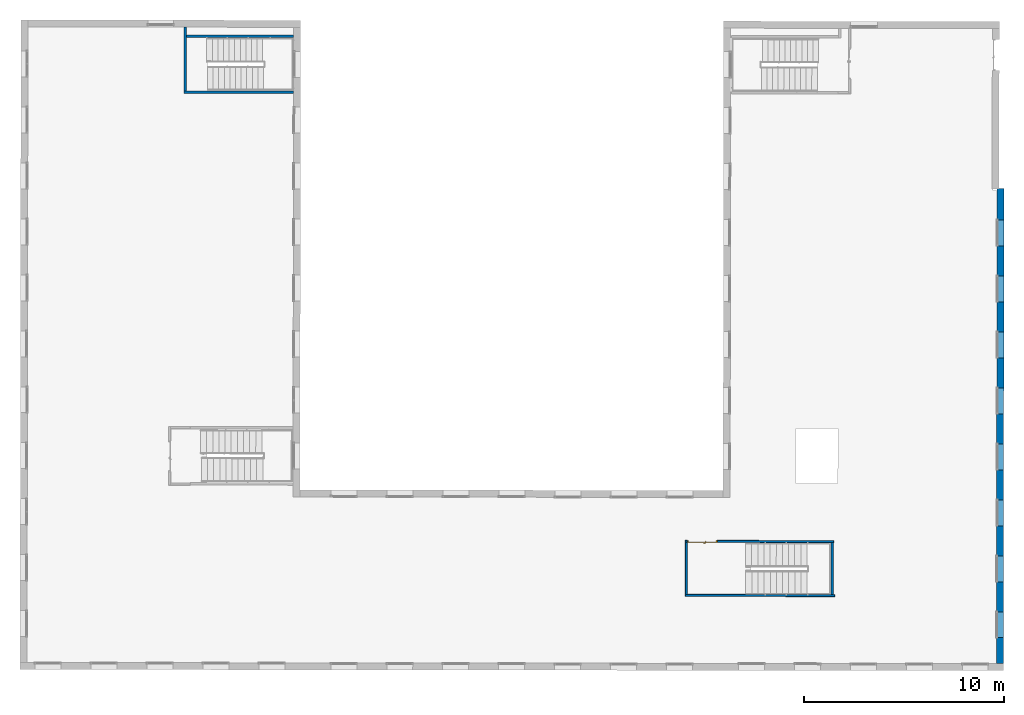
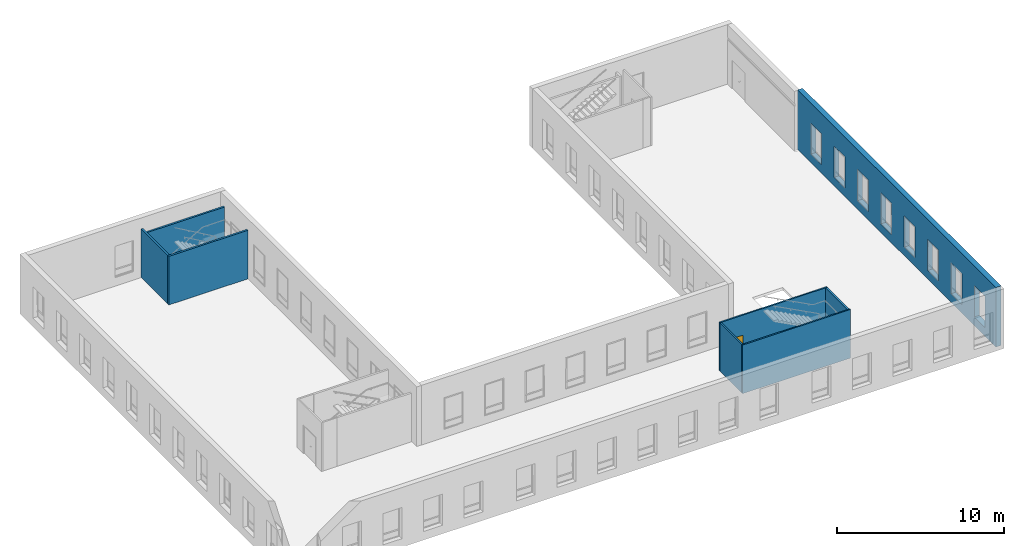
# One storey, part 31 of 35: 8 walls, 1 door, 10 openings.
"""IFC2X3 building model written with IfcOpenShell, lengths in metres."""

from ifc_helpers import new_model, entity, si_unit, converted_unit, derived_unit, direction, frame, frame_2d, origin, place, context, subcontext, project, spatial, rectangle, extrude, faceted_brep, source, transform, mapped, material, material_list, layer, layer_set, layer_usage, type_object, type_shapes, element, fill, save


model = new_model("IFC2X3")

# Units and contexts
model_context = context("Model", 3, precision=1e-05, world=origin(), true_north=direction((6.123233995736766e-17, 1.0)))
body_context = subcontext(model_context, "Body", "Model", "MODEL_VIEW")
ifc_project = project(units=[si_unit("LENGTHUNIT", "METRE"), si_unit("AREAUNIT", "SQUARE_METRE"), converted_unit("PLANEANGLEUNIT", "DEGREE", entity("IfcPlaneAngleMeasure", 0.017453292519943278), si_unit("PLANEANGLEUNIT", "RADIAN"), dimensions=[0, 0, 0, 0, 0, 0, 0]), derived_unit("THERMALTRANSMITTANCEUNIT", [(si_unit("MASSUNIT", "GRAM", prefix="KILO"), 1), (si_unit("THERMODYNAMICTEMPERATUREUNIT", "KELVIN"), -1), (si_unit("TIMEUNIT", "SECOND"), -3)])], contexts=[model_context])

# Site, building, storey
site_placement = place(None, frame((1253.6752467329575, 2072.143113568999, 91.49999999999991), z_axis=(0.0, 0.0, 1.0), x_axis=(0.7237211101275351, 0.6900925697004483, 0.0)))
site = spatial("IfcSite", under=ifc_project, at=site_placement, Name="Surface", CompositionType="ELEMENT")
building_placement = place(site_placement, origin())
building = spatial("IfcBuilding", under=site, at=building_placement, CompositionType="ELEMENT")
storey_placement = place(building_placement, frame((0.0, 0.0, 3.549999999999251)))
storey = spatial("IfcBuildingStorey", under=building, at=storey_placement, Name="1-R+1", CompositionType="ELEMENT", Elevation=3.549999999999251)

# Wall, openings
ifc_material_1 = material(Name="OMD_Béton blanc")
ifc_layer_1 = layer(ifc_material_1, 0.35)
ifc_layer_set_1 = layer_set([ifc_layer_1], Name="Mur de base:MUR 35")
ifc_layer_usage_1 = layer_usage(ifc_layer_set_1, "AXIS2", "NEGATIVE", 0.175)
wall_type_1 = type_object("IfcWallType", Name="Mur de base:MUR 35", PredefinedType="STANDARD", material=ifc_layer_set_1)
wall_1_placement = place(storey_placement, frame((195.8526217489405, -12.162982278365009, 0.0), z_axis=(0.0, 0.0, 1.0), x_axis=(-0.6909838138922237, -0.7228702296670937, 0.0)))
wall_1 = element("IfcWallStandardCase", 1, at=wall_1_placement, inside=storey, type_object=wall_type_1, material=ifc_layer_usage_1, Name="Mur de base:MUR 35", ObjectType="Mur de base:MUR 35", context=body_context, shape_type="SweptSolid", body=[
    extrude(rectangle(XDim=23.78437282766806, YDim=0.3500000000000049, at=frame_2d((11.89218641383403, 2.886579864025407e-15), x_axis=(-1.0, 0.0))), origin(), (0.0, 0.0, 1.0), 4.3500000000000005),
])
opening_1_placement = place(wall_1_placement, frame((3.211135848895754, -0.01476008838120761, 0.6200000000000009)))
element("IfcOpeningElement", 2, at=opening_1_placement, cuts=wall_1, Name="Mur de base:MUR 35", ObjectType="Opening", context=body_context, shape_type="SweptSolid", body=[
    extrude(rectangle(XDim=2.28, YDim=1.2996959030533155, at=frame_2d((1.7486012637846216e-14, 8.881784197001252e-16), x_axis=(0.0, 1.0))), frame((-0.9769150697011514, -0.31263991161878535, 1.1399999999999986), z_axis=(0.0, 1.0, 0.0), x_axis=(-1.0, 0.0, 0.0)), (0.0, 0.0, 1.0), 0.654800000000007),
])
opening_2_placement = place(wall_1_placement, frame((6.011135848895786, -0.014760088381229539, 0.6200000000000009)))
element("IfcOpeningElement", 3, at=opening_2_placement, cuts=wall_1, Name="Mur de base:MUR 35", ObjectType="Opening", context=body_context, shape_type="SweptSolid", body=[
    extrude(rectangle(XDim=2.28, YDim=1.2996959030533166, at=frame_2d((-1.8207657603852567e-14, 8.881784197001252e-16), x_axis=(0.0, 1.0))), frame((-0.9769150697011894, -0.3126399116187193, 1.1399999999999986), z_axis=(0.0, 1.0, 0.0), x_axis=(-1.0, 0.0, 0.0)), (0.0, 0.0, 1.0), 0.6547999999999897),
])
opening_3_placement = place(wall_1_placement, frame((8.811135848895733, -0.014760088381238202, 0.6200000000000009)))
element("IfcOpeningElement", 4, at=opening_3_placement, cuts=wall_1, Name="Mur de base:MUR 35", ObjectType="Opening", context=body_context, shape_type="SweptSolid", body=[
    extrude(rectangle(XDim=2.28, YDim=1.2996959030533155, at=frame_2d((1.7486012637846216e-14, 8.881784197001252e-16), x_axis=(0.0, 1.0))), frame((-0.9769150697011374, -0.3126399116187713, 1.1399999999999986), z_axis=(0.0, 1.0, 0.0), x_axis=(-1.0, 0.0, 0.0)), (0.0, 0.0, 1.0), 0.6547999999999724),
])
opening_4_placement = place(wall_1_placement, frame((11.611135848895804, -0.014760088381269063, 0.6200000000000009)))
element("IfcOpeningElement", 5, at=opening_4_placement, cuts=wall_1, Name="Mur de base:MUR 35", ObjectType="Opening", context=body_context, shape_type="SweptSolid", body=[
    extrude(rectangle(XDim=2.28, YDim=1.299695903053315, at=frame_2d((-1.9040324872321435e-14, 8.881784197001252e-16), x_axis=(0.0, 1.0))), frame((-0.9769150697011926, -0.31263991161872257, 1.1399999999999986), z_axis=(0.0, 1.0, 0.0), x_axis=(-1.0, 0.0, 0.0)), (0.0, 0.0, 1.0), 0.6547999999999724),
])
opening_5_placement = place(wall_1_placement, frame((14.411135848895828, -0.014760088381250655, 0.6200000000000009)))
element("IfcOpeningElement", 6, at=opening_5_placement, cuts=wall_1, Name="Mur de base:MUR 35", ObjectType="Opening", context=body_context, shape_type="SweptSolid", body=[
    extrude(rectangle(XDim=2.28, YDim=1.2996959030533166, at=frame_2d((-1.8207657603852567e-14, 8.881784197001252e-16), x_axis=(0.0, 1.0))), frame((-0.9769150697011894, -0.3126399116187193, 1.1399999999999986), z_axis=(0.0, 1.0, 0.0), x_axis=(-1.0, 0.0, 0.0)), (0.0, 0.0, 1.0), 0.6547999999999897),
])
opening_6_placement = place(wall_1_placement, frame((17.21113584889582, -0.014760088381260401, 0.6200000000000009)))
element("IfcOpeningElement", 7, at=opening_6_placement, cuts=wall_1, Name="Mur de base:MUR 35", ObjectType="Opening", context=body_context, shape_type="SweptSolid", body=[
    extrude(rectangle(XDim=2.28, YDim=1.2996959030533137, at=frame_2d((-1.9817480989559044e-14, 8.881784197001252e-16), x_axis=(0.0, 1.0))), frame((-0.9769150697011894, -0.3126399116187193, 1.1399999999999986), z_axis=(0.0, 1.0, 0.0), x_axis=(-1.0, 0.0, 0.0)), (0.0, 0.0, 1.0), 0.6547999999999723),
])
opening_7_placement = place(wall_1_placement, frame((20.011135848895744, -0.014760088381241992, 0.6200000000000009)))
element("IfcOpeningElement", 8, at=opening_7_placement, cuts=wall_1, Name="Mur de base:MUR 35", ObjectType="Opening", context=body_context, shape_type="SweptSolid", body=[
    extrude(rectangle(XDim=2.28, YDim=1.2996959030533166, at=frame_2d((1.8207657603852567e-14, 8.881784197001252e-16), x_axis=(0.0, 1.0))), frame((-0.9769150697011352, -0.31263991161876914, 1.1399999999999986), z_axis=(0.0, 1.0, 0.0), x_axis=(-1.0, 0.0, 0.0)), (0.0, 0.0, 1.0), 0.6547999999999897),
])
opening_8_placement = place(wall_1_placement, frame((22.811135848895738, -0.01476008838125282, 0.6200000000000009)))
element("IfcOpeningElement", 9, at=opening_8_placement, cuts=wall_1, Name="Mur de base:MUR 35", ObjectType="Opening", context=body_context, shape_type="SweptSolid", body=[
    extrude(rectangle(XDim=2.28, YDim=1.2996959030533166, at=frame_2d((-1.8207657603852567e-14, 8.881784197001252e-16), x_axis=(0.0, 1.0))), frame((-0.9769150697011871, -0.3126399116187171, 1.1399999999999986), z_axis=(0.0, 1.0, 0.0), x_axis=(-1.0, 0.0, 0.0)), (0.0, 0.0, 1.0), 0.6547999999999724),
])

# Walls
ifc_layer_2 = layer(ifc_material_1, 0.12999999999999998)
ifc_layer_set_2 = layer_set([ifc_layer_2], Name="Mur de base:MUR 13")
ifc_layer_usage_2 = layer_usage(ifc_layer_set_2, "AXIS2", "NEGATIVE", 0.06499999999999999)
wall_type_2 = type_object("IfcWallType", Name="Mur de base:MUR 13", PredefinedType="STANDARD", material=ifc_layer_set_2)
wall_2_placement = place(storey_placement, frame((173.56682991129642, 15.732409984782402, 0.0), z_axis=(0.0, 0.0, 1.0), x_axis=(-0.7228702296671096, 0.6909838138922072, 0.0)))
element("IfcWallStandardCase", 10, at=wall_2_placement, inside=storey, type_object=wall_type_2, material=ifc_layer_usage_2, Name="Mur de base:MUR 13", ObjectType="Mur de base:MUR 13", context=body_context, shape_type="SweptSolid", body=[
    extrude(rectangle(XDim=5.4699999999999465, YDim=0.12999999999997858, at=frame_2d((2.7349999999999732, -1.1102230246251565e-15), x_axis=(-1.0, 0.0))), origin(), (0.0, 0.0, 1.0), 3.5499999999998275),
])
ifc_layer_usage_3 = layer_usage(ifc_layer_set_2, "AXIS2", "NEGATIVE", 0.06499999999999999)
wall_3_placement = place(storey_placement, frame((169.70463026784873, 19.514164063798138, 0.0), z_axis=(0.0, 0.0, 1.0), x_axis=(0.6909838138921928, 0.7228702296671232, 0.0)))
element("IfcWallStandardCase", 11, at=wall_3_placement, inside=storey, type_object=wall_type_2, material=ifc_layer_usage_3, Name="Mur de base:MUR 13", ObjectType="Mur de base:MUR 13", context=body_context, shape_type="SweptSolid", body=[
    extrude(rectangle(XDim=3.179465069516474, YDim=0.12999999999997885, at=frame_2d((1.589732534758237, 1.3600232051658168e-15), x_axis=(-1.0, 0.0))), origin(), (0.0, 0.0, 1.0), 3.5499999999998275),
])
ifc_layer_usage_4 = layer_usage(ifc_layer_set_2, "AXIS2", "NEGATIVE", 0.06499999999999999)
wall_4_placement = place(storey_placement, frame((175.5015845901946, 17.756446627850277, 0.0), z_axis=(0.0, 0.0, 1.0), x_axis=(-0.7228702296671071, 0.6909838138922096, 0.0)))
element("IfcWallStandardCase", 12, at=wall_4_placement, inside=storey, type_object=wall_type_2, material=ifc_layer_usage_4, Name="Mur de base:MUR 13", ObjectType="Mur de base:MUR 13", context=body_context, shape_type="SweptSolid", body=[
    extrude(rectangle(XDim=5.340000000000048, YDim=0.1299999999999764, at=frame_2d((2.670000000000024, 7.840950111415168e-16), x_axis=(-1.0, 0.0))), origin(), (0.0, 0.0, 1.0), 3.5499999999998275),
])
ifc_layer_usage_5 = layer_usage(ifc_layer_set_2, "AXIS2", "NEGATIVE", 0.06499999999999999)
wall_5_placement = place(storey_placement, frame((177.53357594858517, -19.185278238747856, 0.0), z_axis=(0.0, 0.0, 1.0), x_axis=(-0.6909838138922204, -0.7228702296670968, 0.0)))
element("IfcWallStandardCase", 13, at=wall_5_placement, inside=storey, type_object=wall_type_2, material=ifc_layer_usage_5, Name="Mur de base:MUR 13", ObjectType="Mur de base:MUR 13", context=body_context, shape_type="SweptSolid", body=[
    extrude(rectangle(XDim=2.5999999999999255, YDim=0.12999999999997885, at=frame_2d((1.2999999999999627, 9.575673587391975e-16), x_axis=(-1.0, 0.0))), origin(), (0.0, 0.0, 1.0), 3.5499999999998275),
])

# Wall, opening, door
ifc_layer_3 = layer(ifc_material_1, 0.1)
ifc_layer_set_3 = layer_set([ifc_layer_3], Name="Mur de base:MUR 10")
ifc_layer_usage_6 = layer_usage(ifc_layer_set_3, "AXIS2", "NEGATIVE", 0.05)
wall_type_3 = type_object("IfcWallType", Name="Mur de base:MUR 10", PredefinedType="STANDARD", material=ifc_layer_set_3)
wall_6_placement = place(storey_placement, frame((172.2514146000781, -14.066948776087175, 0.0), z_axis=(0.0, 0.0, 1.0), x_axis=(0.7228702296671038, -0.6909838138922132, 0.0)))
wall_6 = element("IfcWallStandardCase", 14, at=wall_6_placement, inside=storey, type_object=wall_type_3, material=ifc_layer_usage_6, Name="Mur de base:MUR 10", ObjectType="Mur de base:MUR 10", context=body_context, shape_type="SweptSolid", body=[
    extrude(rectangle(XDim=7.420000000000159, YDim=0.1000000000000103, at=frame_2d((3.7100000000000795, -2.7998436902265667e-15), x_axis=(-1.0, 0.0))), origin(), (0.0, 0.0, 1.0), 3.5499999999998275),
])
opening_9_placement = place(wall_6_placement, frame((1.6024999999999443, 0.05000000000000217, 0.0)))
opening_9 = element("IfcOpeningElement", 15, at=opening_9_placement, cuts=wall_6, Name="OMD_Porte 2V tunnel:136x204:1", ObjectType="Opening", context=body_context, shape_type="SweptSolid", body=[
    extrude(rectangle(XDim=2.085, YDim=1.5049999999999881, at=frame_2d((1.0425, 0.7524999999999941), x_axis=(1.0, 0.0))), frame((0.0, 0.0, 0.0), z_axis=(0.0, -1.0, 0.0), x_axis=(0.0, 0.0, 1.0)), (0.0, 0.0, 1.0), 0.1),
])
ifc_material_2 = material(Name="<Unnamed>")
ifc_material_3 = material(Name="Porte - Poignée")
ifc_material_4 = material(Name="OMD_Bois")
ifc_material_list = material_list([ifc_material_2, ifc_material_3, ifc_material_4])
door_style = type_object("IfcDoorStyle", Name="OMD_Porte 2V tunnel:136x204", ConstructionType="NOTDEFINED", OperationType="NOTDEFINED", ParameterTakesPrecedence=False, Sizeable=False, material=ifc_material_list)
shared_shape = source(origin(), body_context, "Body", "Brep", [
    faceted_brep([(1.4599999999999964, 0.03000000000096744, 0.0), (1.4599999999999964, 0.0, 0.0), (0.9749999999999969, 0.0, 0.0), (0.9749999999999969, 0.03000000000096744, 0.0), (1.4599999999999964, 0.03000000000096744, 2.04), (1.4599999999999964, 0.0, 2.04), (0.9749999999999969, 0.0, 2.04), (0.9749999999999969, 0.03000000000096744, 2.04)], [[[0, 1, 2, 3]], [[4, 5, 1, 0]], [[5, 6, 2, 1]], [[6, 7, 3, 2]], [[7, 4, 0, 3]], [[4, 7, 6, 5]]]),
    faceted_brep([(0.9220252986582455, 0.03500000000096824, 1.0077804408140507), (0.9179747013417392, 0.03500000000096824, 1.007780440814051), (0.913999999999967, 0.03500000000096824, 1.00699999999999), (0.913999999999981, 0.03500000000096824, 0.9930000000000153), (0.9179747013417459, 0.03500000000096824, 0.9922195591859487), (0.922025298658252, 0.03500000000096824, 0.9922195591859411), (0.9260000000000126, 0.03500000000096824, 0.9929999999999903), (0.9260000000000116, 0.03500000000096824, 1.006999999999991), (0.913999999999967, 0.05748520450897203, 1.00699999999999), (0.913999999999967, 0.057485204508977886, 0.9930000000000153), (0.917974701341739, 0.05913157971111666, 1.007780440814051), (0.9220252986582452, 0.0608093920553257, 1.0077804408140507), (0.9058389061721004, 0.07699578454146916, 1.0077804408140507), (0.9041610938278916, 0.07294518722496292, 1.007780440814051), (0.8207931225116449, 0.07294518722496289, 1.0077804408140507), (0.8191153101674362, 0.07699578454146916, 1.0077804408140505), (0.8114510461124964, 0.06933152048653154, 1.0077804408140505), (0.8143152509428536, 0.06646731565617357, 1.0077804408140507), (0.9260000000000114, 0.06245576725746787, 1.006999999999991), (0.9260000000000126, 0.06245576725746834, 0.9929999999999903), (0.922025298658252, 0.060809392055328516, 0.9922195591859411), (0.9179747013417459, 0.05913157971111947, 0.9922195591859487), (0.9041610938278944, 0.07294518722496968, 0.9922195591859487), (0.9058389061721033, 0.0769957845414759, 0.9922195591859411), (0.8191153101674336, 0.07699578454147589, 0.9922195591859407), (0.820793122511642, 0.07294518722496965, 0.9922195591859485), (0.814315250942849, 0.0664673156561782, 0.9922195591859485), (0.8114510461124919, 0.06933152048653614, 0.9922195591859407), (0.9025147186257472, 0.06897048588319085, 1.00699999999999), (0.9025147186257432, 0.06897048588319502, 0.9930000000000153), (0.9074852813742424, 0.08097048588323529, 1.006999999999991), (0.907485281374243, 0.0809704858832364, 0.9929999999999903), (0.8624771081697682, 0.06897048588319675, 1.0069999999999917), (0.8224394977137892, 0.06897048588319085, 1.0069999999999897), (0.8224394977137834, 0.06897048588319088, 0.9930000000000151), (0.8624771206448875, 0.0689704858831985, 0.9930000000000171), (0.862477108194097, 0.07512492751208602, 1.0078781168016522), (0.8573994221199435, 0.0809704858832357, 1.0069999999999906), (0.8174689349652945, 0.08097048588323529, 1.0069999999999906), (0.8675547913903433, 0.08097048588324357, 0.9929999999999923), (0.8174689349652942, 0.0809704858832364, 0.99299999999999), (0.8624771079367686, 0.07512492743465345, 0.9921218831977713), (0.8086405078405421, 0.07214205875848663, 1.0069999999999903), (0.808640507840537, 0.07214205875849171, 0.9929999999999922), (0.8171257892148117, 0.06365677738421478, 0.9930000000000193), (0.8171257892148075, 0.06365677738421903, 1.0069999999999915)], [[[0, 1, 2, 3, 4, 5, 6, 7]], [[8, 9, 3, 2]], [[1, 10, 8, 2]], [[1, 0, 11, 12, 13, 10]], [[14, 15, 16, 17]], [[7, 18, 11, 0]], [[18, 7, 6, 19]], [[6, 5, 20, 19]], [[5, 4, 21, 22, 23, 20]], [[24, 25, 26, 27]], [[4, 3, 9, 21]], [[28, 29, 9, 8]], [[8, 10, 13, 28]], [[18, 30, 12, 11]], [[31, 30, 18, 19]], [[19, 20, 23, 31]], [[21, 9, 29, 22]], [[29, 28, 32, 33, 34, 35]], [[36, 32, 13]], [[37, 38, 15]], [[37, 12, 30]], [[36, 12, 37]], [[14, 32, 36]], [[36, 15, 14]], [[28, 13, 32]], [[32, 14, 33]], [[12, 36, 13]], [[15, 36, 37]], [[30, 31, 39, 40, 38, 37]], [[23, 41, 39]], [[24, 39, 41]], [[39, 31, 23]], [[39, 24, 40]], [[22, 35, 41]], [[41, 23, 22]], [[41, 35, 25]], [[35, 22, 29]], [[34, 25, 35]], [[24, 41, 25]], [[17, 16, 42, 43, 27, 26, 44, 45]], [[45, 44, 34, 33]], [[33, 14, 17, 45]], [[15, 38, 42, 16]], [[43, 42, 38, 40]], [[24, 27, 43, 40]], [[34, 44, 26, 25]]]),
    faceted_brep([(0.9179747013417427, -0.004999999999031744, 1.007780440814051), (0.9220252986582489, -0.004999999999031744, 1.0077804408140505), (0.9260000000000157, -0.004999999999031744, 1.0069999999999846), (0.9260000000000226, -0.004999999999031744, 0.9929999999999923), (0.9220252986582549, -0.004999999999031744, 0.992219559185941), (0.9179747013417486, -0.004999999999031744, 0.9922195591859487), (0.9139999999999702, -0.004999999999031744, 0.9930000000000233), (0.9139999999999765, -0.004999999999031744, 1.006999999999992), (0.9220252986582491, -0.031004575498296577, 1.0077804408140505), (0.9260000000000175, -0.032650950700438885, 1.0069999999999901), (0.9179747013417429, -0.0293267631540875, 1.007780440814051), (0.9042986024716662, -0.043002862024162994, 1.007780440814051), (0.9059764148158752, -0.047053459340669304, 1.0077804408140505), (0.8191424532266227, -0.047053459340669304, 1.0077804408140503), (0.8208202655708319, -0.043002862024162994, 1.0077804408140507), (0.8143423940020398, -0.03652499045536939, 1.0077804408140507), (0.8114781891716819, -0.03938919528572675, 1.0077804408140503), (0.9139999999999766, -0.027680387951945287, 1.006999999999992), (0.9139999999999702, -0.02768038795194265, 0.9930000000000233), (0.9179747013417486, -0.029326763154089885, 0.9922195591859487), (0.9220252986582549, -0.031004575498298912, 0.992219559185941), (0.9059764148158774, -0.04705345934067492, 0.992219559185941), (0.9042986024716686, -0.043002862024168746, 0.9922195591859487), (0.8208202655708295, -0.04300286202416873, 0.9922195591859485), (0.8191424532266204, -0.04705345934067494, 0.9922195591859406), (0.8114781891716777, -0.0393891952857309, 0.9922195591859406), (0.8143423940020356, -0.0365249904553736, 0.9922195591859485), (0.9260000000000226, -0.03265095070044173, 0.9929999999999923), (0.9076227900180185, -0.05102816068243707, 1.0069999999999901), (0.9026522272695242, -0.03902816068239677, 1.006999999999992), (0.9026522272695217, -0.03902816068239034, 0.9930000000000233), (0.9076227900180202, -0.051028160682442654, 0.9929999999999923), (0.8625594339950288, -0.045182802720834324, 1.0078781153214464), (0.8676923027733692, -0.051028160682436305, 1.0069999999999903), (0.8174960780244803, -0.05102816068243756, 1.00699999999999), (0.8625594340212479, -0.039028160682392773, 1.0069999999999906), (0.8224666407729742, -0.03902816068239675, 1.0069999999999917), (0.8625594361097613, -0.03902816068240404, 0.9930000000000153), (0.8224666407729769, -0.03902816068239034, 0.9930000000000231), (0.8625594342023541, -0.0451828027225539, 0.9921218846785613), (0.8574265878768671, -0.051028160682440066, 0.9929999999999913), (0.8174960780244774, -0.051028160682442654, 0.9929999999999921), (0.8171529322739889, -0.03371445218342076, 0.9930000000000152), (0.808667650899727, -0.042199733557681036, 0.9929999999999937), (0.8086676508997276, -0.04219973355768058, 1.0069999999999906), (0.8171529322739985, -0.03371445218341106, 1.0069999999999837)], [[[0, 1, 2, 3, 4, 5, 6, 7]], [[2, 1, 8, 9]], [[1, 0, 10, 11, 12, 8]], [[13, 14, 15, 16]], [[0, 7, 17, 10]], [[18, 17, 7, 6]], [[5, 19, 18, 6]], [[5, 4, 20, 21, 22, 19]], [[23, 24, 25, 26]], [[3, 27, 20, 4]], [[9, 27, 3, 2]], [[9, 8, 12, 28]], [[10, 17, 29, 11]], [[30, 29, 17, 18]], [[18, 19, 22, 30]], [[20, 27, 31, 21]], [[28, 31, 27, 9]], [[12, 32, 33]], [[13, 33, 32]], [[33, 28, 12]], [[33, 13, 34]], [[11, 35, 32]], [[32, 12, 11]], [[32, 35, 14]], [[35, 11, 29]], [[36, 14, 35]], [[13, 32, 14]], [[29, 30, 37, 38, 36, 35]], [[39, 37, 22]], [[40, 41, 24]], [[40, 21, 31]], [[39, 21, 40]], [[23, 37, 39]], [[39, 24, 23]], [[30, 22, 37]], [[37, 23, 38]], [[21, 39, 22]], [[24, 39, 40]], [[31, 28, 33, 34, 41, 40]], [[42, 26, 25, 43, 44, 16, 15, 45]], [[13, 16, 44, 34]], [[36, 45, 15, 14]], [[42, 45, 36, 38]], [[38, 23, 26, 42]], [[24, 41, 43, 25]], [[44, 43, 41, 34]]]),
    faceted_brep([(0.9199999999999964, 0.030000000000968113, 0.8646410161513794), (0.930352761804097, 0.03000000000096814, 0.866003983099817), (0.939999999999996, 0.030000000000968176, 0.8700000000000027), (0.9399999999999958, 0.030000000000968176, 1.0800000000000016), (0.930352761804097, 0.03000000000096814, 1.0839960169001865), (0.9199999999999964, 0.030000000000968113, 1.0853589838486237), (0.9096472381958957, 0.03000000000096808, 1.0839960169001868), (0.8999999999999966, 0.030000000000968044, 1.0800000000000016), (0.8999999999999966, 0.030000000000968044, 0.8700000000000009), (0.9096472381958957, 0.03000000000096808, 0.8660039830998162), (0.9199999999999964, 0.03500000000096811, 1.0853589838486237), (0.930352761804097, 0.035000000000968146, 1.0839960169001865), (0.9399999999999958, 0.03500000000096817, 1.0800000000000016), (0.9399999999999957, 0.03500000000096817, 0.8700000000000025), (0.930352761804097, 0.035000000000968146, 0.866003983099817), (0.9199999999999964, 0.03500000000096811, 0.8646410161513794), (0.9096472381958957, 0.035000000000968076, 0.8660039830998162), (0.8999999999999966, 0.03500000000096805, 0.8700000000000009), (0.8999999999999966, 0.03500000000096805, 1.0800000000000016), (0.9096472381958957, 0.035000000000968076, 1.0839960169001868)], [[[0, 1, 2, 3, 4, 5, 6, 7, 8, 9]], [[10, 11, 12, 13, 14, 15, 16, 17, 18, 19]], [[6, 19, 18, 7]], [[5, 10, 19, 6]], [[4, 11, 10, 5]], [[4, 3, 12, 11]], [[12, 3, 2, 13]], [[1, 14, 13, 2]], [[0, 15, 14, 1]], [[9, 16, 15, 0]], [[9, 8, 17, 16]], [[17, 8, 7, 18]]]),
    faceted_brep([(0.9199999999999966, -0.004999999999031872, 0.8646410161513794), (0.9303527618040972, -0.004999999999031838, 0.8660039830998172), (0.9399999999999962, -0.004999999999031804, 0.8700000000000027), (0.9399999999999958, -0.004999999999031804, 1.0800000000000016), (0.9303527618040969, -0.004999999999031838, 1.0839960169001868), (0.9199999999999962, -0.004999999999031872, 1.0853589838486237), (0.9096472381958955, -0.004999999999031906, 1.0839960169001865), (0.8999999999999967, -0.004999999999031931, 1.0800000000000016), (0.8999999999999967, -0.004999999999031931, 0.8700000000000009), (0.9096472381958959, -0.004999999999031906, 0.8660039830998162), (0.9399999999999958, 0.0, 1.0800000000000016), (0.939999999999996, 0.0, 0.8700000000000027), (0.9303527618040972, 0.0, 0.8660039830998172), (0.9199999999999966, 0.0, 0.8646410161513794), (0.9096472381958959, 0.0, 0.8660039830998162), (0.8999999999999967, 0.0, 0.8700000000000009), (0.8999999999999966, 0.0, 1.0800000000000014), (0.9096472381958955, 0.0, 1.0839960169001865), (0.9199999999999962, 0.0, 1.0853589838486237), (0.9303527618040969, 0.0, 1.0839960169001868)], [[[0, 1, 2, 3, 4, 5, 6, 7, 8, 9]], [[10, 11, 12, 13, 14, 15, 16, 17, 18, 19]], [[1, 12, 11, 2]], [[0, 13, 12, 1]], [[9, 14, 13, 0]], [[9, 8, 15, 14]], [[15, 8, 7, 16]], [[6, 17, 16, 7]], [[5, 18, 17, 6]], [[4, 19, 18, 5]], [[4, 3, 10, 19]], [[10, 3, 2, 11]]]),
    faceted_brep([(0.9750000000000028, 0.03000000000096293, 0.0), (0.9750000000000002, 0.0, 0.0), (0.04500000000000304, 0.0, 0.0), (0.04500000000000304, 0.030000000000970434, 0.0), (0.9750000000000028, 0.03000000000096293, 2.04), (0.9750000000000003, 0.0, 2.04), (0.04500000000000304, 0.0, 2.04), (0.04500000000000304, 0.030000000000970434, 2.04)], [[[0, 1, 2, 3]], [[4, 5, 1, 0]], [[5, 6, 2, 1]], [[6, 7, 3, 2]], [[7, 4, 0, 3]], [[4, 7, 6, 5]]]),
    faceted_brep([(1.5049999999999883, 0.0, 0.0), (1.4599999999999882, 0.0, 0.0), (1.4599999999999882, 0.030000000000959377, 0.0), (1.4449999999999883, 0.03000000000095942, 0.0), (1.4449999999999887, 0.10000000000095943, 0.0), (1.5049999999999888, 0.10000000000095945, 0.0), (1.5049999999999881, 0.0, 2.0849999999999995), (0.0, 0.0, 2.0849999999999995), (0.0, 0.0, 0.0), (0.04500000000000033, 0.0, 0.0), (0.045000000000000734, 0.0, 2.0399999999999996), (1.4599999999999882, 0.0, 2.039999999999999), (1.4599999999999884, 0.030000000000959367, 2.0399999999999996), (0.045000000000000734, 0.03000000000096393, 2.039999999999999), (0.045000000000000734, 0.030000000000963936, 0.0), (0.060000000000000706, 0.0300000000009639, 0.0), (0.060000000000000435, 0.0300000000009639, 2.0249999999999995), (1.4449999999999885, 0.030000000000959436, 2.0249999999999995), (1.4449999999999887, 0.10000000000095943, 2.0249999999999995), (0.060000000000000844, 0.10000000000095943, 2.0249999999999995), (0.060000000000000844, 0.10000000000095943, 0.0), (0.0, 0.1000000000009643, 0.0), (0.0, 0.1000000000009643, 2.0849999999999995), (1.5049999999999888, 0.10000000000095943, 2.0849999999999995)], [[[0, 1, 2, 3, 4, 5]], [[1, 0, 6, 7, 8, 9, 10, 11]], [[2, 1, 11, 12]], [[3, 2, 12, 13, 14, 15, 16, 17]], [[4, 3, 17, 18]], [[5, 4, 18, 19, 20, 21, 22, 23]], [[0, 5, 23, 6]], [[7, 22, 21, 8]], [[8, 21, 20, 15, 14, 9]], [[13, 10, 9, 14]], [[19, 16, 15, 20]], [[12, 11, 10, 13]], [[18, 17, 16, 19]], [[6, 23, 22, 7]]]),
])
type_shapes(door_style, [shared_shape])
door_placement = place(opening_9_placement, frame((-1.5049999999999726, -0.10000000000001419, 0.0)))
door = element("IfcDoor", 16, at=door_placement, inside=storey, type_object=door_style, material=ifc_material_list, Name="OMD_Porte 2V tunnel:136x204", ObjectType="OMD_Porte 2V tunnel:136x204", OverallHeight=2.085, OverallWidth=1.5050000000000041, context=body_context, shape_type="MappedRepresentation", body=[
    mapped(shared_shape, transform((0.0, 0.0, 0.0), scale=1.0)),
])
fill(opening_9, door)

# Wall
ifc_layer_usage_7 = layer_usage(ifc_layer_set_3, "AXIS2", "NEGATIVE", 0.05)
wall_7_placement = place(storey_placement, frame((175.78559891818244, -21.18034748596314, 0.0), z_axis=(0.0, 0.0, 1.0), x_axis=(-0.7228702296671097, 0.690983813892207, 0.0)))
element("IfcWallStandardCase", 17, at=wall_7_placement, inside=storey, type_object=wall_type_3, material=ifc_layer_usage_7, Name="Mur de base:MUR 10", ObjectType="Mur de base:MUR 10", context=body_context, shape_type="SweptSolid", body=[
    extrude(rectangle(XDim=7.470000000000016, YDim=0.10000000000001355, at=frame_2d((3.735000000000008, -3.3133218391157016e-15), x_axis=(-1.0, 0.0))), origin(), (0.0, 0.0, 1.0), 3.5499999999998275),
])

# Wall, opening
ifc_layer_usage_8 = layer_usage(ifc_layer_set_3, "AXIS2", "NEGATIVE", 0.05)
wall_8_placement = place(storey_placement, frame((170.4564510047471, -16.01710407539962, 0.0), z_axis=(0.0, 0.0, 1.0), x_axis=(0.6909838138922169, 0.7228702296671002, 0.0)))
wall_8 = element("IfcWallStandardCase", 18, at=wall_8_placement, inside=storey, type_object=wall_type_3, material=ifc_layer_usage_8, Name="Mur de base:MUR 10", ObjectType="Mur de base:MUR 10", context=body_context, shape_type="SweptSolid", body=[
    extrude(rectangle(XDim=2.5999999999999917, YDim=0.10000000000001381, at=frame_2d((1.2999999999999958, 2.2343238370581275e-15), x_axis=(-1.0, 0.0))), origin(), (0.0, 0.0, 1.0), 3.5499999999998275),
])
opening_10_placement = place(wall_8_placement, frame((-106.204360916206, 134.28545354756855, 0.0)))
element("IfcOpeningElement", 19, at=opening_10_placement, cuts=wall_8, Name="Mur de base:MUR 10", ObjectType="Opening", context=body_context, shape_type="SweptSolid", body=[
    extrude(rectangle(XDim=2.085, YDim=0.10000000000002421, at=frame_2d((-1.0172418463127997e-14, 3.3306690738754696e-16), x_axis=(0.0, 1.0))), frame((108.85436091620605, -135.83795354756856, 1.0425000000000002), z_axis=(0.0, 1.0, 0.0), x_axis=(1.0, 0.0, 0.0)), (0.0, 0.0, 1.0), 1.5049999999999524),
])

save(model, "model.ifc")
